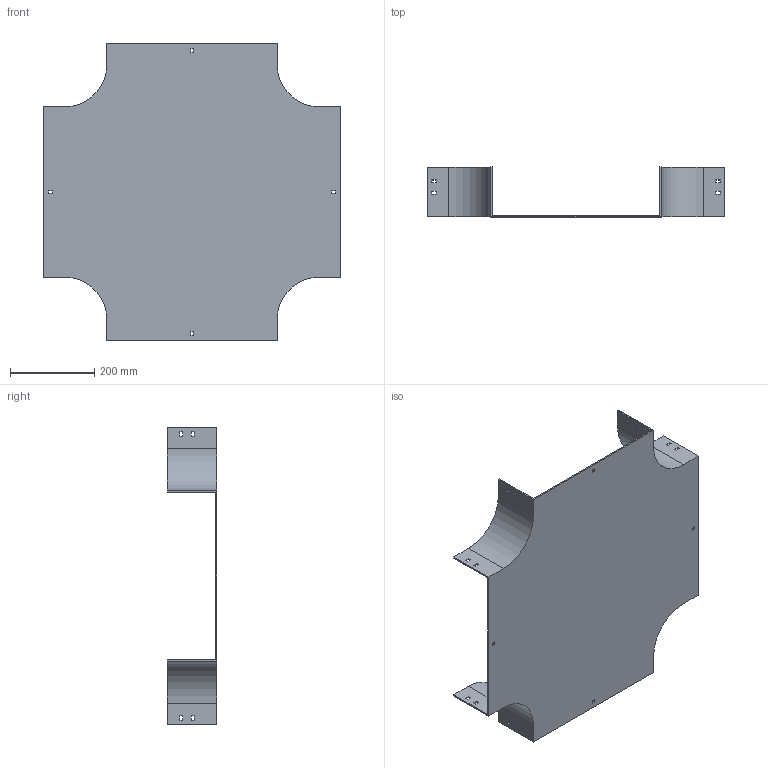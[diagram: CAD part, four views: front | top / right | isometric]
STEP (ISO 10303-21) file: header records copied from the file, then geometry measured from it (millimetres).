
FILE_DESCRIPTION (( 'STEP AP214' ), '1' );
FILE_NAME ('17B1J400.step', '2025-02-21T09:56:46', ( '' ), ( '' ), 'SwSTEP 2.0', 'SolidWorks 2023', '' );
FILE_SCHEMA (( 'AUTOMOTIVE_DESIGN' ));
Length unit declared in the file: millimetre
Products named in the file (1): 17B1J400
Bounding box: 704 x 117.5 x 704 mm (x, y, z)
Volume: 1859647.6 mm3; surface area: 1077440.9 mm2
Topology: 1 solids, 1 shells, 114 faces, 336 edges, 224 vertices
Faces by surface type: plane 106, cylinder 8
Entity records: 3839 total; most frequent: CARTESIAN_POINT 675, ORIENTED_EDGE 672, DIRECTION 582, EDGE_CURVE 336, LINE 320, VECTOR 320, VERTEX_POINT 224, EDGE_LOOP 154
